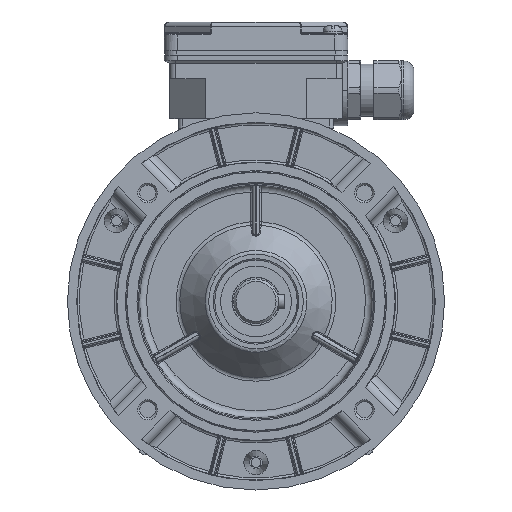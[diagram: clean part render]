
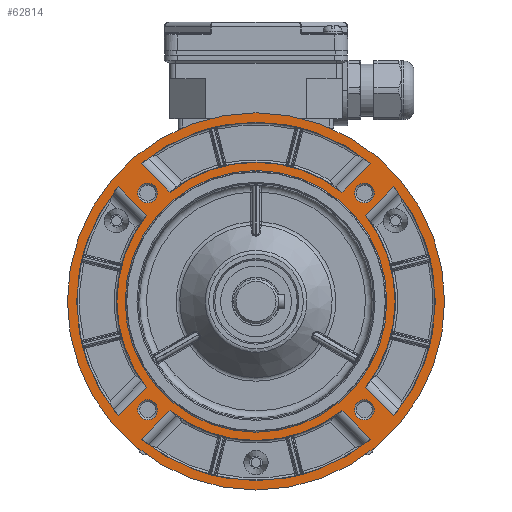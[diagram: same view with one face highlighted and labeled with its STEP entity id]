
A CAD part, left-side view. The second image highlights one B-rep face of the part: STEP entity #62814.
In plain terms, the highlighted planar face has unit normal (-1, 0, 0).
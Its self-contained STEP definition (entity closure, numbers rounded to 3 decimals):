
#2606=LINE('',#89068,#5800);
#2607=LINE('',#89073,#5801);
#2608=LINE('',#89079,#5802);
#2609=LINE('',#89083,#5803);
#2610=LINE('',#89084,#5804);
#2611=LINE('',#89089,#5805);
#2612=LINE('',#89092,#5806);
#2613=LINE('',#89097,#5807);
#5800=VECTOR('',#71355,1000.);
#5801=VECTOR('',#71358,1000.);
#5802=VECTOR('',#71363,1000.);
#5803=VECTOR('',#71366,1000.);
#5804=VECTOR('',#71367,1000.);
#5805=VECTOR('',#71370,1000.);
#5806=VECTOR('',#71373,1000.);
#5807=VECTOR('',#71376,1000.);
#9655=PLANE('',#65747);
#12954=ORIENTED_EDGE('',*,*,#25855,.T.);
#12955=ORIENTED_EDGE('',*,*,#25856,.T.);
#12956=ORIENTED_EDGE('',*,*,#25857,.T.);
#12957=ORIENTED_EDGE('',*,*,#25858,.T.);
#12958=ORIENTED_EDGE('',*,*,#25859,.T.);
#12959=ORIENTED_EDGE('',*,*,#25815,.T.);
#12960=ORIENTED_EDGE('',*,*,#25860,.T.);
#12961=ORIENTED_EDGE('',*,*,#25861,.T.);
#12962=ORIENTED_EDGE('',*,*,#25862,.F.);
#12963=ORIENTED_EDGE('',*,*,#25863,.F.);
#12964=ORIENTED_EDGE('',*,*,#25864,.T.);
#12965=ORIENTED_EDGE('',*,*,#25865,.F.);
#12966=ORIENTED_EDGE('',*,*,#25866,.F.);
#12967=ORIENTED_EDGE('',*,*,#25867,.T.);
#12968=ORIENTED_EDGE('',*,*,#25868,.T.);
#12969=ORIENTED_EDGE('',*,*,#25869,.T.);
#12970=ORIENTED_EDGE('',*,*,#25870,.F.);
#12971=ORIENTED_EDGE('',*,*,#25871,.F.);
#12972=ORIENTED_EDGE('',*,*,#25872,.T.);
#12973=ORIENTED_EDGE('',*,*,#25873,.T.);
#12974=ORIENTED_EDGE('',*,*,#25874,.F.);
#12975=ORIENTED_EDGE('',*,*,#25875,.F.);
#25815=EDGE_CURVE('',#32452,#32452,#36654,.T.);
#25855=EDGE_CURVE('',#32468,#32468,#36676,.F.);
#25856=EDGE_CURVE('',#32469,#32469,#36677,.F.);
#25857=EDGE_CURVE('',#32470,#32470,#36678,.F.);
#25858=EDGE_CURVE('',#32471,#32471,#36679,.F.);
#25859=EDGE_CURVE('',#32472,#32472,#36680,.F.);
#25860=EDGE_CURVE('',#32473,#32474,#2606,.T.);
#25861=EDGE_CURVE('',#32474,#32475,#36681,.T.);
#25862=EDGE_CURVE('',#32476,#32475,#2607,.T.);
#25863=EDGE_CURVE('',#32473,#32476,#36682,.T.);
#25864=EDGE_CURVE('',#32477,#32478,#36683,.T.);
#25865=EDGE_CURVE('',#32479,#32478,#2608,.T.);
#25866=EDGE_CURVE('',#32480,#32479,#36684,.T.);
#25867=EDGE_CURVE('',#32480,#32477,#2609,.T.);
#25868=EDGE_CURVE('',#32481,#32482,#2610,.T.);
#25869=EDGE_CURVE('',#32482,#32483,#36685,.T.);
#25870=EDGE_CURVE('',#32484,#32483,#2611,.T.);
#25871=EDGE_CURVE('',#32481,#32484,#36686,.T.);
#25872=EDGE_CURVE('',#32485,#32486,#2612,.T.);
#25873=EDGE_CURVE('',#32486,#32487,#36687,.T.);
#25874=EDGE_CURVE('',#32488,#32487,#2613,.T.);
#25875=EDGE_CURVE('',#32485,#32488,#36688,.T.);
#32452=VERTEX_POINT('',#88913);
#32468=VERTEX_POINT('',#89059);
#32469=VERTEX_POINT('',#89061);
#32470=VERTEX_POINT('',#89063);
#32471=VERTEX_POINT('',#89065);
#32472=VERTEX_POINT('',#89067);
#32473=VERTEX_POINT('',#89069);
#32474=VERTEX_POINT('',#89070);
#32475=VERTEX_POINT('',#89072);
#32476=VERTEX_POINT('',#89074);
#32477=VERTEX_POINT('',#89077);
#32478=VERTEX_POINT('',#89078);
#32479=VERTEX_POINT('',#89080);
#32480=VERTEX_POINT('',#89082);
#32481=VERTEX_POINT('',#89085);
#32482=VERTEX_POINT('',#89086);
#32483=VERTEX_POINT('',#89088);
#32484=VERTEX_POINT('',#89090);
#32485=VERTEX_POINT('',#89093);
#32486=VERTEX_POINT('',#89094);
#32487=VERTEX_POINT('',#89096);
#32488=VERTEX_POINT('',#89098);
#36654=CIRCLE('',#65696,80.);
#36676=CIRCLE('',#65748,55.5);
#36677=CIRCLE('',#65749,4.2);
#36678=CIRCLE('',#65750,4.2);
#36679=CIRCLE('',#65751,4.2);
#36680=CIRCLE('',#65752,4.2);
#36681=CIRCLE('',#65753,59.);
#36682=CIRCLE('',#65754,76.);
#36683=CIRCLE('',#65755,59.);
#36684=CIRCLE('',#65756,76.);
#36685=CIRCLE('',#65757,59.);
#36686=CIRCLE('',#65758,76.);
#36687=CIRCLE('',#65759,59.);
#36688=CIRCLE('',#65760,76.);
#38916=EDGE_LOOP('',(#12954));
#38917=EDGE_LOOP('',(#12955));
#38918=EDGE_LOOP('',(#12956));
#38919=EDGE_LOOP('',(#12957));
#38920=EDGE_LOOP('',(#12958));
#38921=EDGE_LOOP('',(#12959));
#38922=EDGE_LOOP('',(#12960,#12961,#12962,#12963));
#38923=EDGE_LOOP('',(#12964,#12965,#12966,#12967));
#38924=EDGE_LOOP('',(#12968,#12969,#12970,#12971));
#38925=EDGE_LOOP('',(#12972,#12973,#12974,#12975));
#42086=FACE_BOUND('',#38916,.T.);
#42087=FACE_BOUND('',#38917,.T.);
#42088=FACE_BOUND('',#38918,.T.);
#42089=FACE_BOUND('',#38919,.T.);
#42090=FACE_BOUND('',#38920,.T.);
#42091=FACE_BOUND('',#38921,.T.);
#42092=FACE_BOUND('',#38922,.T.);
#42093=FACE_BOUND('',#38923,.T.);
#42094=FACE_BOUND('',#38924,.T.);
#42095=FACE_BOUND('',#38925,.T.);
#62814=ADVANCED_FACE('',(#42086,#42087,#42088,#42089,#42090,#42091,#42092,
#42093,#42094,#42095),#9655,.T.);
#65696=AXIS2_PLACEMENT_3D('',#88912,#71233,#71234);
#65747=AXIS2_PLACEMENT_3D('',#89057,#71343,#71344);
#65748=AXIS2_PLACEMENT_3D('',#89058,#71345,#71346);
#65749=AXIS2_PLACEMENT_3D('',#89060,#71347,#71348);
#65750=AXIS2_PLACEMENT_3D('',#89062,#71349,#71350);
#65751=AXIS2_PLACEMENT_3D('',#89064,#71351,#71352);
#65752=AXIS2_PLACEMENT_3D('',#89066,#71353,#71354);
#65753=AXIS2_PLACEMENT_3D('',#89071,#71356,#71357);
#65754=AXIS2_PLACEMENT_3D('',#89075,#71359,#71360);
#65755=AXIS2_PLACEMENT_3D('',#89076,#71361,#71362);
#65756=AXIS2_PLACEMENT_3D('',#89081,#71364,#71365);
#65757=AXIS2_PLACEMENT_3D('',#89087,#71368,#71369);
#65758=AXIS2_PLACEMENT_3D('',#89091,#71371,#71372);
#65759=AXIS2_PLACEMENT_3D('',#89095,#71374,#71375);
#65760=AXIS2_PLACEMENT_3D('',#89099,#71377,#71378);
#71233=DIRECTION('',(-1.,0.,0.));
#71234=DIRECTION('',(0.,1.,0.));
#71343=DIRECTION('',(-1.,0.,0.));
#71344=DIRECTION('',(0.,-1.,0.));
#71345=DIRECTION('',(-1.,0.,0.));
#71346=DIRECTION('',(0.,-1.,0.));
#71347=DIRECTION('',(-1.,0.,0.));
#71348=DIRECTION('',(0.,-1.,0.));
#71349=DIRECTION('',(-1.,0.,0.));
#71350=DIRECTION('',(0.,-1.,0.));
#71351=DIRECTION('',(-1.,0.,0.));
#71352=DIRECTION('',(0.,-1.,0.));
#71353=DIRECTION('',(-1.,0.,0.));
#71354=DIRECTION('',(0.,-1.,0.));
#71355=DIRECTION('',(0.,0.707,0.707));
#71356=DIRECTION('',(-1.,0.,0.));
#71357=DIRECTION('',(0.,0.,1.));
#71358=DIRECTION('',(0.,0.707,-0.707));
#71359=DIRECTION('',(-1.,0.,0.));
#71360=DIRECTION('',(0.,0.,1.));
#71361=DIRECTION('',(-1.,0.,0.));
#71362=DIRECTION('',(0.,0.,1.));
#71363=DIRECTION('',(0.,0.707,0.707));
#71364=DIRECTION('',(-1.,0.,0.));
#71365=DIRECTION('',(0.,0.,1.));
#71366=DIRECTION('',(0.,-0.707,0.707));
#71367=DIRECTION('',(0.,0.707,-0.707));
#71368=DIRECTION('',(-1.,0.,0.));
#71369=DIRECTION('',(0.,0.,1.));
#71370=DIRECTION('',(0.,-0.707,-0.707));
#71371=DIRECTION('',(-1.,0.,0.));
#71372=DIRECTION('',(0.,0.,1.));
#71373=DIRECTION('',(0.,-0.707,-0.707));
#71374=DIRECTION('',(-1.,0.,0.));
#71375=DIRECTION('',(0.,0.,1.));
#71376=DIRECTION('',(0.,-0.707,0.707));
#71377=DIRECTION('',(-1.,0.,0.));
#71378=DIRECTION('',(0.,0.,1.));
#88912=CARTESIAN_POINT('',(-44.8,0.,0.));
#88913=CARTESIAN_POINT('',(-44.8,80.,0.));
#89057=CARTESIAN_POINT('',(-44.8,0.,0.));
#89058=CARTESIAN_POINT('',(-44.8,0.,0.));
#89059=CARTESIAN_POINT('',(-44.8,-55.5,0.));
#89060=CARTESIAN_POINT('',(-44.8,-45.962,-45.962));
#89061=CARTESIAN_POINT('',(-44.8,-50.162,-45.962));
#89062=CARTESIAN_POINT('',(-44.8,-45.962,45.962));
#89063=CARTESIAN_POINT('',(-44.8,-50.162,45.962));
#89064=CARTESIAN_POINT('',(-44.8,45.962,45.962));
#89065=CARTESIAN_POINT('',(-44.8,41.762,45.962));
#89066=CARTESIAN_POINT('',(-44.8,45.962,-45.962));
#89067=CARTESIAN_POINT('',(-44.8,41.762,-45.962));
#89068=CARTESIAN_POINT('',(-44.8,-70.057,-60.157));
#89069=CARTESIAN_POINT('',(-44.8,-58.461,-48.562));
#89070=CARTESIAN_POINT('',(-44.8,-46.374,-36.475));
#89071=CARTESIAN_POINT('',(-44.8,0.,0.));
#89072=CARTESIAN_POINT('',(-44.8,-46.374,36.475));
#89073=CARTESIAN_POINT('',(-44.8,-70.057,60.157));
#89074=CARTESIAN_POINT('',(-44.8,-58.461,48.562));
#89075=CARTESIAN_POINT('',(-44.8,0.,0.));
#89076=CARTESIAN_POINT('',(-44.8,0.,0.));
#89077=CARTESIAN_POINT('',(-44.8,36.475,-46.374));
#89078=CARTESIAN_POINT('',(-44.8,-36.475,-46.374));
#89079=CARTESIAN_POINT('',(-44.8,-60.157,-70.057));
#89080=CARTESIAN_POINT('',(-44.8,-48.562,-58.461));
#89081=CARTESIAN_POINT('',(-44.8,0.,0.));
#89082=CARTESIAN_POINT('',(-44.8,48.562,-58.461));
#89083=CARTESIAN_POINT('',(-44.8,60.157,-70.057));
#89084=CARTESIAN_POINT('',(-44.8,-60.157,70.057));
#89085=CARTESIAN_POINT('',(-44.8,-48.562,58.461));
#89086=CARTESIAN_POINT('',(-44.8,-36.475,46.374));
#89087=CARTESIAN_POINT('',(-44.8,0.,0.));
#89088=CARTESIAN_POINT('',(-44.8,36.475,46.374));
#89089=CARTESIAN_POINT('',(-44.8,60.157,70.057));
#89090=CARTESIAN_POINT('',(-44.8,48.562,58.461));
#89091=CARTESIAN_POINT('',(-44.8,0.,0.));
#89092=CARTESIAN_POINT('',(-44.8,70.057,60.157));
#89093=CARTESIAN_POINT('',(-44.8,58.461,48.562));
#89094=CARTESIAN_POINT('',(-44.8,46.374,36.475));
#89095=CARTESIAN_POINT('',(-44.8,0.,0.));
#89096=CARTESIAN_POINT('',(-44.8,46.374,-36.475));
#89097=CARTESIAN_POINT('',(-44.8,70.057,-60.157));
#89098=CARTESIAN_POINT('',(-44.8,58.461,-48.562));
#89099=CARTESIAN_POINT('',(-44.8,0.,0.));
